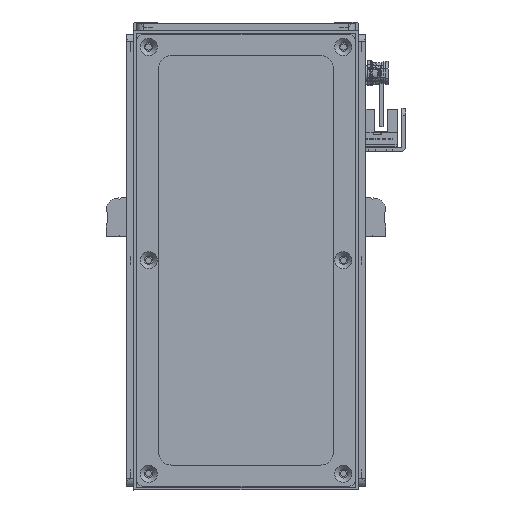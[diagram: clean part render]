
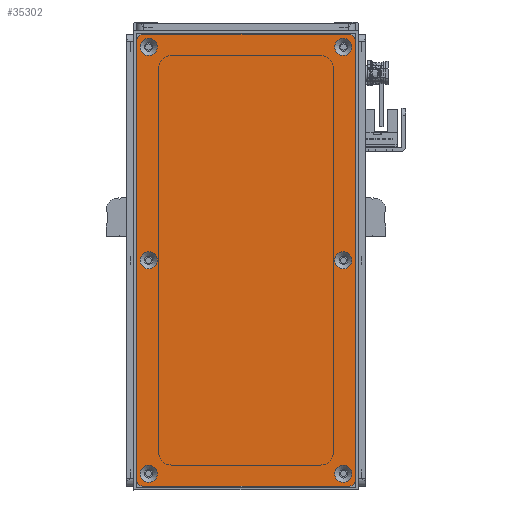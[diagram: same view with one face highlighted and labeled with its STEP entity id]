
A CAD part, front view. The second image highlights one B-rep face of the part: STEP entity #35302.
In plain terms, the highlighted planar face has unit normal (0, -1, 0) as drawn and (0, 0, 1) by its records, which use the part's own axes.
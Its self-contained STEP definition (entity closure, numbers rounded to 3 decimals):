
#4711=FACE_BOUND('',#8470,.T.);
#4712=FACE_BOUND('',#8471,.T.);
#4713=FACE_BOUND('',#8472,.T.);
#4714=FACE_BOUND('',#8473,.T.);
#4715=FACE_BOUND('',#8474,.T.);
#4716=FACE_BOUND('',#8475,.T.);
#6352=FACE_OUTER_BOUND('',#8469,.T.);
#8469=EDGE_LOOP('',(#32209,#32210,#32211,#32212,#32213,#32214,#32215,#32216));
#8470=EDGE_LOOP('',(#32217));
#8471=EDGE_LOOP('',(#32218));
#8472=EDGE_LOOP('',(#32219));
#8473=EDGE_LOOP('',(#32220));
#8474=EDGE_LOOP('',(#32221));
#8475=EDGE_LOOP('',(#32222));
#10191=CIRCLE('',#39787,3.45);
#10194=CIRCLE('',#39792,3.45);
#10197=CIRCLE('',#39797,3.45);
#10200=CIRCLE('',#39802,3.45);
#10203=CIRCLE('',#39807,3.45);
#10206=CIRCLE('',#39812,3.45);
#10213=CIRCLE('',#39822,3.);
#10214=CIRCLE('',#39825,3.);
#10215=CIRCLE('',#39828,3.);
#10216=CIRCLE('',#39831,3.);
#12895=LINE('',#62049,#15687);
#12898=LINE('',#62057,#15690);
#12901=LINE('',#62065,#15693);
#12904=LINE('',#62072,#15696);
#15687=VECTOR('',#49468,10.);
#15690=VECTOR('',#49477,10.);
#15693=VECTOR('',#49486,10.);
#15696=VECTOR('',#49495,10.);
#18751=VERTEX_POINT('',#61965);
#18754=VERTEX_POINT('',#61975);
#18757=VERTEX_POINT('',#61985);
#18760=VERTEX_POINT('',#61995);
#18763=VERTEX_POINT('',#62005);
#18766=VERTEX_POINT('',#62015);
#18777=VERTEX_POINT('',#62042);
#18778=VERTEX_POINT('',#62044);
#18779=VERTEX_POINT('',#62048);
#18780=VERTEX_POINT('',#62052);
#18781=VERTEX_POINT('',#62056);
#18782=VERTEX_POINT('',#62060);
#18783=VERTEX_POINT('',#62064);
#18784=VERTEX_POINT('',#62068);
#23243=EDGE_CURVE('',#18751,#18751,#10191,.T.);
#23248=EDGE_CURVE('',#18754,#18754,#10194,.T.);
#23253=EDGE_CURVE('',#18757,#18757,#10197,.T.);
#23258=EDGE_CURVE('',#18760,#18760,#10200,.T.);
#23263=EDGE_CURVE('',#18763,#18763,#10203,.T.);
#23268=EDGE_CURVE('',#18766,#18766,#10206,.T.);
#23282=EDGE_CURVE('',#18778,#18777,#10213,.T.);
#23284=EDGE_CURVE('',#18779,#18778,#12895,.T.);
#23286=EDGE_CURVE('',#18780,#18779,#10214,.T.);
#23288=EDGE_CURVE('',#18781,#18780,#12898,.T.);
#23290=EDGE_CURVE('',#18782,#18781,#10215,.T.);
#23292=EDGE_CURVE('',#18783,#18782,#12901,.T.);
#23294=EDGE_CURVE('',#18784,#18783,#10216,.T.);
#23296=EDGE_CURVE('',#18777,#18784,#12904,.T.);
#32209=ORIENTED_EDGE('',*,*,#23296,.T.);
#32210=ORIENTED_EDGE('',*,*,#23294,.T.);
#32211=ORIENTED_EDGE('',*,*,#23292,.T.);
#32212=ORIENTED_EDGE('',*,*,#23290,.T.);
#32213=ORIENTED_EDGE('',*,*,#23288,.T.);
#32214=ORIENTED_EDGE('',*,*,#23286,.T.);
#32215=ORIENTED_EDGE('',*,*,#23284,.T.);
#32216=ORIENTED_EDGE('',*,*,#23282,.T.);
#32217=ORIENTED_EDGE('',*,*,#23243,.T.);
#32218=ORIENTED_EDGE('',*,*,#23248,.T.);
#32219=ORIENTED_EDGE('',*,*,#23253,.T.);
#32220=ORIENTED_EDGE('',*,*,#23258,.T.);
#32221=ORIENTED_EDGE('',*,*,#23263,.T.);
#32222=ORIENTED_EDGE('',*,*,#23268,.T.);
#33654=PLANE('',#39833);
#35302=ADVANCED_FACE('',(#6352,#4711,#4712,#4713,#4714,#4715,#4716),#33654,
 .T.);
#39787=AXIS2_PLACEMENT_3D('',#61966,#49376,#49377);
#39792=AXIS2_PLACEMENT_3D('',#61976,#49388,#49389);
#39797=AXIS2_PLACEMENT_3D('',#61986,#49400,#49401);
#39802=AXIS2_PLACEMENT_3D('',#61996,#49412,#49413);
#39807=AXIS2_PLACEMENT_3D('',#62006,#49424,#49425);
#39812=AXIS2_PLACEMENT_3D('',#62016,#49436,#49437);
#39822=AXIS2_PLACEMENT_3D('',#62045,#49463,#49464);
#39825=AXIS2_PLACEMENT_3D('',#62053,#49472,#49473);
#39828=AXIS2_PLACEMENT_3D('',#62061,#49481,#49482);
#39831=AXIS2_PLACEMENT_3D('',#62069,#49490,#49491);
#39833=AXIS2_PLACEMENT_3D('',#62073,#49496,#49497);
#49376=DIRECTION('center_axis',(0.,0.,-1.));
#49377=DIRECTION('ref_axis',(1.,0.,0.));
#49388=DIRECTION('center_axis',(0.,0.,-1.));
#49389=DIRECTION('ref_axis',(1.,0.,0.));
#49400=DIRECTION('center_axis',(0.,0.,-1.));
#49401=DIRECTION('ref_axis',(1.,0.,0.));
#49412=DIRECTION('center_axis',(0.,0.,-1.));
#49413=DIRECTION('ref_axis',(1.,0.,0.));
#49424=DIRECTION('center_axis',(0.,0.,-1.));
#49425=DIRECTION('ref_axis',(1.,0.,0.));
#49436=DIRECTION('center_axis',(0.,0.,-1.));
#49437=DIRECTION('ref_axis',(1.,0.,0.));
#49463=DIRECTION('center_axis',(0.,0.,1.));
#49464=DIRECTION('ref_axis',(0.,1.,0.));
#49468=DIRECTION('',(-1.,0.,0.));
#49472=DIRECTION('center_axis',(0.,0.,1.));
#49473=DIRECTION('ref_axis',(1.,0.,0.));
#49477=DIRECTION('',(0.,1.,0.));
#49481=DIRECTION('center_axis',(0.,0.,1.));
#49482=DIRECTION('ref_axis',(0.,-1.,0.));
#49486=DIRECTION('',(1.,0.,0.));
#49490=DIRECTION('center_axis',(0.,0.,1.));
#49491=DIRECTION('ref_axis',(-1.,0.,0.));
#49495=DIRECTION('',(0.,-1.,0.));
#49496=DIRECTION('center_axis',(0.,0.,1.));
#49497=DIRECTION('ref_axis',(1.,0.,0.));
#61965=CARTESIAN_POINT('',(-3.45,39.,1.5));
#61966=CARTESIAN_POINT('Origin',(0.,39.,1.5));
#61975=CARTESIAN_POINT('',(82.05,-39.,1.5));
#61976=CARTESIAN_POINT('Origin',(85.5,-39.,1.5));
#61985=CARTESIAN_POINT('',(-88.95,39.,1.5));
#61986=CARTESIAN_POINT('Origin',(-85.5,39.,1.5));
#61995=CARTESIAN_POINT('',(82.05,39.,1.5));
#61996=CARTESIAN_POINT('Origin',(85.5,39.,1.5));
#62005=CARTESIAN_POINT('',(-88.95,-39.,1.5));
#62006=CARTESIAN_POINT('Origin',(-85.5,-39.,1.5));
#62015=CARTESIAN_POINT('',(-3.45,-39.,1.5));
#62016=CARTESIAN_POINT('Origin',(0.,-39.,1.5));
#62042=CARTESIAN_POINT('',(-90.5,41.,1.5));
#62044=CARTESIAN_POINT('',(-87.5,44.,1.5));
#62045=CARTESIAN_POINT('Origin',(-87.5,41.,1.5));
#62048=CARTESIAN_POINT('',(87.5,44.,1.5));
#62049=CARTESIAN_POINT('',(87.5,44.,1.5));
#62052=CARTESIAN_POINT('',(90.5,41.,1.5));
#62053=CARTESIAN_POINT('Origin',(87.5,41.,1.5));
#62056=CARTESIAN_POINT('',(90.5,-41.,1.5));
#62057=CARTESIAN_POINT('',(90.5,-41.,1.5));
#62060=CARTESIAN_POINT('',(87.5,-44.,1.5));
#62061=CARTESIAN_POINT('Origin',(87.5,-41.,1.5));
#62064=CARTESIAN_POINT('',(-87.5,-44.,1.5));
#62065=CARTESIAN_POINT('',(-87.5,-44.,1.5));
#62068=CARTESIAN_POINT('',(-90.5,-41.,1.5));
#62069=CARTESIAN_POINT('Origin',(-87.5,-41.,1.5));
#62072=CARTESIAN_POINT('',(-90.5,41.,1.5));
#62073=CARTESIAN_POINT('Origin',(0.,0.,
1.5));
